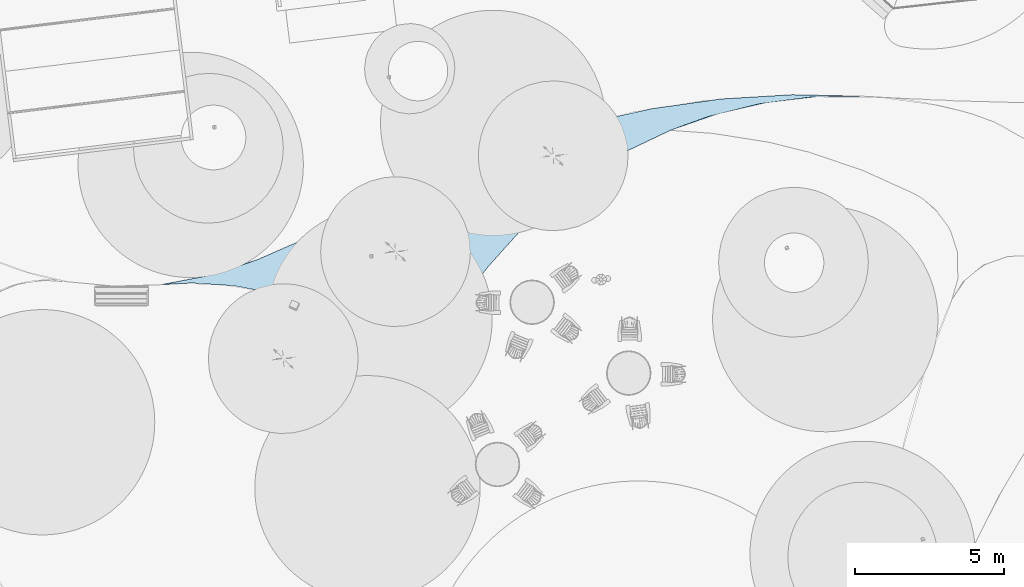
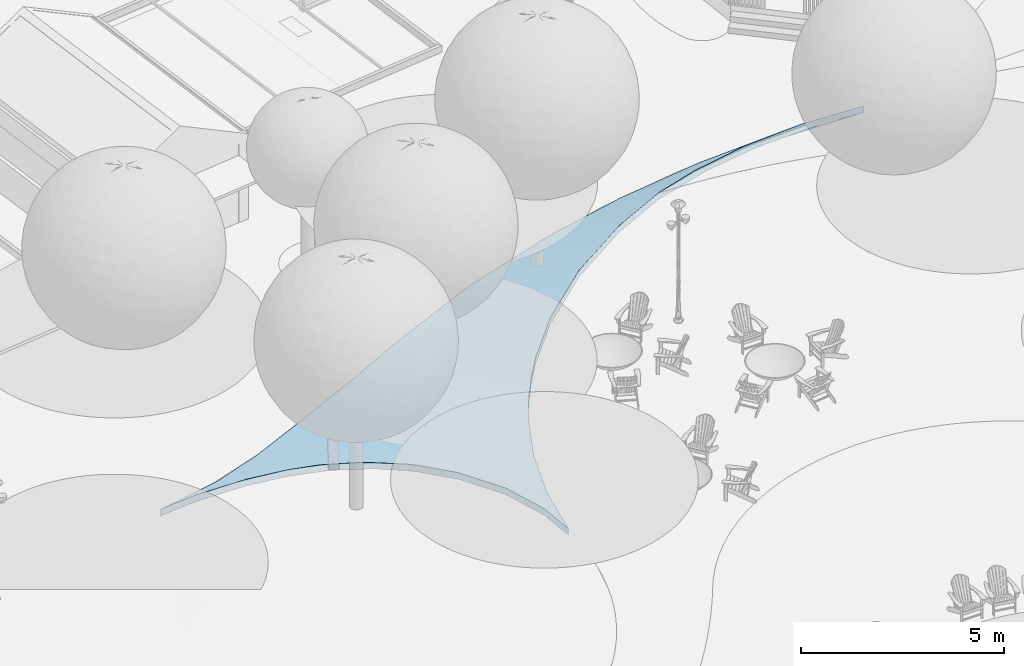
# One storey, part 45 of 75: 1 slab.
"""IFC2X3 building model written with IfcOpenShell, lengths in metres."""

from ifc_helpers import new_model, entity, si_unit, converted_unit, derived_unit, direction, origin, place, context, subcontext, project, spatial, face_set, surface_model, material, material_list, layer, layer_set, type_object, element, save


model = new_model("IFC2X3")

# Units and contexts
model_context = context("Model", 3, precision=1e-05, world=origin(), true_north=direction((6.123031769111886e-17, 1.0)))
body_context = subcontext(model_context, "Body", "Model", "MODEL_VIEW")
ifc_project = project(units=[si_unit("LENGTHUNIT", "METRE"), si_unit("AREAUNIT", "SQUARE_METRE"), si_unit("VOLUMEUNIT", "CUBIC_METRE"), converted_unit("PLANEANGLEUNIT", "DEGREE", entity("IfcRatioMeasure", 0.017453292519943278), si_unit("PLANEANGLEUNIT", "RADIAN"), dimensions=[0, 0, 0, 0, 0, 0, 0]), si_unit("MASSUNIT", "GRAM", prefix="KILO"), derived_unit("MASSDENSITYUNIT", [(si_unit("MASSUNIT", "GRAM", prefix="KILO"), 1), (si_unit("LENGTHUNIT", "METRE"), -3)]), derived_unit("IONCONCENTRATIONUNIT", [(si_unit("MASSUNIT", "GRAM", prefix="KILO"), 1), (si_unit("LENGTHUNIT", "METRE"), -3)]), derived_unit("MOMENTOFINERTIAUNIT", [(si_unit("LENGTHUNIT", "METRE"), 4)]), si_unit("TIMEUNIT", "SECOND"), si_unit("FREQUENCYUNIT", "HERTZ"), si_unit("THERMODYNAMICTEMPERATUREUNIT", "DEGREE_CELSIUS"), derived_unit("THERMALTRANSMITTANCEUNIT", [(si_unit("MASSUNIT", "GRAM", prefix="KILO"), 1), (si_unit("THERMODYNAMICTEMPERATUREUNIT", "KELVIN"), -1), (si_unit("TIMEUNIT", "SECOND"), -3)]), derived_unit("THERMALCONDUCTANCEUNIT", [(si_unit("MASSUNIT", "GRAM", prefix="KILO"), 1), (si_unit("THERMODYNAMICTEMPERATUREUNIT", "KELVIN"), -1), (si_unit("TIMEUNIT", "SECOND"), -3), (si_unit("LENGTHUNIT", "METRE"), 1)]), derived_unit("VOLUMETRICFLOWRATEUNIT", [(si_unit("LENGTHUNIT", "METRE"), 3), (si_unit("TIMEUNIT", "SECOND"), -1)]), derived_unit("MASSFLOWRATEUNIT", [(si_unit("MASSUNIT", "GRAM", prefix="KILO"), 1), (si_unit("TIMEUNIT", "SECOND"), -1)]), derived_unit("ROTATIONALFREQUENCYUNIT", [(si_unit("TIMEUNIT", "SECOND"), -1)]), si_unit("ELECTRICCURRENTUNIT", "AMPERE"), si_unit("ELECTRICVOLTAGEUNIT", "VOLT"), si_unit("POWERUNIT", "WATT"), si_unit("FORCEUNIT", "NEWTON", prefix="KILO"), si_unit("ILLUMINANCEUNIT", "LUX"), si_unit("LUMINOUSFLUXUNIT", "LUMEN"), si_unit("LUMINOUSINTENSITYUNIT", "CANDELA"), derived_unit("USERDEFINED", [(si_unit("MASSUNIT", "GRAM", prefix="KILO"), -1), (si_unit("LENGTHUNIT", "METRE"), -2), (si_unit("TIMEUNIT", "SECOND"), 3), (si_unit("LUMINOUSFLUXUNIT", "LUMEN"), 1)]), derived_unit("USERDEFINED", [(si_unit("MASSUNIT", "GRAM", prefix="KILO"), 1), (si_unit("TIMEUNIT", "SECOND"), -3), (si_unit("LENGTHUNIT", "METRE"), 3), (si_unit("ELECTRICCURRENTUNIT", "AMPERE"), -2)]), derived_unit("SOUNDPOWERUNIT", [(si_unit("MASSUNIT", "GRAM", prefix="KILO"), 1), (si_unit("TIMEUNIT", "SECOND"), -3), (si_unit("LENGTHUNIT", "METRE"), 2)]), derived_unit("SOUNDPRESSUREUNIT", [(si_unit("MASSUNIT", "GRAM", prefix="KILO"), 1), (si_unit("LENGTHUNIT", "METRE"), -1), (si_unit("TIMEUNIT", "SECOND"), -2)]), derived_unit("LINEARVELOCITYUNIT", [(si_unit("LENGTHUNIT", "METRE"), 1), (si_unit("TIMEUNIT", "SECOND"), -1)]), si_unit("PRESSUREUNIT", "PASCAL"), derived_unit("USERDEFINED", [(si_unit("MASSUNIT", "GRAM", prefix="KILO"), 1), (si_unit("LENGTHUNIT", "METRE"), -2), (si_unit("TIMEUNIT", "SECOND"), -2)]), derived_unit("LINEARFORCEUNIT", [(si_unit("MASSUNIT", "GRAM", prefix="KILO"), 1), (si_unit("TIMEUNIT", "SECOND"), -2)]), derived_unit("PLANARFORCEUNIT", [(si_unit("MASSUNIT", "GRAM", prefix="KILO"), 1), (si_unit("LENGTHUNIT", "METRE"), -1), (si_unit("TIMEUNIT", "SECOND"), -2)]), derived_unit("SPECIFICHEATCAPACITYUNIT", [(si_unit("THERMODYNAMICTEMPERATUREUNIT", "KELVIN"), -1), (si_unit("LENGTHUNIT", "METRE"), 2), (si_unit("TIMEUNIT", "SECOND"), -2)]), derived_unit("HEATINGVALUEUNIT", [(si_unit("LENGTHUNIT", "METRE"), 2), (si_unit("TIMEUNIT", "SECOND"), -2)]), derived_unit("VAPORPERMEABILITYUNIT", [(si_unit("LENGTHUNIT", "METRE"), -1), (si_unit("TIMEUNIT", "SECOND"), 1)]), derived_unit("DYNAMICVISCOSITYUNIT", [(si_unit("MASSUNIT", "GRAM", prefix="KILO"), 1), (si_unit("TIMEUNIT", "SECOND"), -1), (si_unit("LENGTHUNIT", "METRE"), -1)]), derived_unit("THERMALEXPANSIONCOEFFICIENTUNIT", [(si_unit("THERMODYNAMICTEMPERATUREUNIT", "KELVIN"), -1)]), derived_unit("MODULUSOFELASTICITYUNIT", [(si_unit("MASSUNIT", "GRAM", prefix="KILO"), 1), (si_unit("LENGTHUNIT", "METRE"), -1), (si_unit("TIMEUNIT", "SECOND"), -2)]), derived_unit("ISOTHERMALMOISTURECAPACITYUNIT", [(si_unit("LENGTHUNIT", "METRE"), 3), (si_unit("MASSUNIT", "GRAM", prefix="KILO"), -1)]), derived_unit("MOISTUREDIFFUSIVITYUNIT", [(si_unit("TIMEUNIT", "SECOND"), -1), (si_unit("LENGTHUNIT", "METRE"), 2)])], contexts=[model_context])

# Site, building, storey
site_placement = place(None, origin())
site = spatial("IfcSite", under=ifc_project, at=site_placement, Name="Default", CompositionType="ELEMENT")
building_placement = place(site_placement, origin())
building = spatial("IfcBuilding", under=site, at=building_placement, Name="Projeto", CompositionType="ELEMENT")
storey_placement = place(building_placement, origin())
storey = spatial("IfcBuildingStorey", under=building, at=storey_placement, Name="Nível 1", CompositionType="ELEMENT", Elevation=0.0)

# Slab
ifc_material_1 = material(Name="Grama-esmeralda")
ifc_material_2 = material(Name="JA_Solo")
ifc_material_list = material_list([ifc_material_1, ifc_material_2])
ifc_layer_1 = layer(ifc_material_1, 0.04)
ifc_layer_2 = layer(ifc_material_2, 0.16)
ifc_layer_set = layer_set([ifc_layer_1, ifc_layer_2], Name="Piso:Zoysia japonica")
slab_type = type_object("IfcSlabType", Name="Piso:Zoysia japonica", PredefinedType="FLOOR", material=ifc_layer_set)
slab_placement = place(storey_placement, origin())
element("IfcSlab", 1, at=slab_placement, inside=storey, type_object=slab_type, material=ifc_material_list, Name="Piso:Zoysia japonica", ObjectType="Piso:Zoysia japonica", PredefinedType="FLOOR", context=body_context, shape_type="SurfaceModel", body=[
    surface_model("IfcFaceBasedSurfaceModel", [(3.0948067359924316, 15.725287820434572, -2.250000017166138), (3.3667863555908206, 16.296077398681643, -2.4499998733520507), (3.0948067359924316, 15.725287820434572, -2.4499998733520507), (2.266455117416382, 12.579850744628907, -2.250000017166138), (2.4244193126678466, 13.379147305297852, -2.250000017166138), (2.4244193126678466, 13.379147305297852, -2.4499998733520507), (2.266455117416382, 12.579850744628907, -2.4499998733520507), (3.445281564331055, 16.46081036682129, -2.250000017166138), (3.581271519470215, 16.746205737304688, -2.250000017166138), (3.7957566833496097, 17.196334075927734, -2.250000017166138), (3.7957566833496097, 17.196334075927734, -2.4499998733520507), (2.710489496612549, 14.565153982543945, -2.4499998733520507), (2.5823836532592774, 14.178442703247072, -2.4499998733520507), (2.5823836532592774, 14.178442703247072, -2.250000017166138), (2.838595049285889, 14.95186526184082, -2.250000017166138), (2.838595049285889, 14.95186526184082, -2.4499998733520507), (2.503401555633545, 13.778795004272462, -2.250000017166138), (2.24629559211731, 12.914145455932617, -2.260328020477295), (1.847088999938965, 14.961510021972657, -2.3249999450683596), (1.6871554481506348, 15.258722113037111, -2.335416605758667), (1.847088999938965, 14.961510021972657, -2.5249999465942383), (2.2013912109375, 13.658774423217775, -2.283333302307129), (2.2013912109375, 13.658774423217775, -2.483333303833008), (2.2339230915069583, 13.119312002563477, -2.4666665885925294), (2.2339230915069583, 13.119312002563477, -2.2666667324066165), (1.5272220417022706, 15.555934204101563, -2.5458332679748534), (1.9356645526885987, 14.635826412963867, -2.5145834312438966), (0.5118600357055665, 16.977783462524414, -2.600000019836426), (0.6857337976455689, 16.770927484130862, -2.5916668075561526), (0.5118600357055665, 16.977783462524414, -2.400000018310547), (-1.7795191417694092, 18.362094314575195, -2.683333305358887), (-1.267250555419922, 18.18987924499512, -2.666666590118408), (-1.5171691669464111, 18.293414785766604, -2.4750000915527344), (-1.0332169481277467, 18.05292365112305, -2.458333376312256), (-0.7947411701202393, 17.92755223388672, -2.64999987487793), (-0.5492647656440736, 17.812432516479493, -2.4416666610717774), (2.0242401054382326, 14.310141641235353, -2.304166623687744), (2.0242401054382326, 14.310141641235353, -2.504166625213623), (0.8596074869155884, 16.564071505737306, -2.3833333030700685), (0.8596074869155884, 16.564071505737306, -2.5833333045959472), (1.2073550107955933, 16.150359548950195, -2.566666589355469), (1.2073550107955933, 16.150359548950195, -2.3666667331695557), (1.5272220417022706, 15.555934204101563, -2.3458332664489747), (0.41465107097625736, 17.071884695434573, -2.4041666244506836), (0.41465107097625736, 17.071884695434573, -2.604166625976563), (0.315321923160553, 17.163743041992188, -2.4083333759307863), (0.315321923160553, 17.163743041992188, -2.608333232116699), (-0.11697141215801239, 17.488087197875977, -2.4249999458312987), (-0.3222317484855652, 17.665224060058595, -2.633333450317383), (-2.2917875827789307, 18.53430822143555, -2.5000000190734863), (-2.2917875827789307, 18.53430822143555, -2.7000000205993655), (-3.3244017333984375, 18.724593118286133, -2.529999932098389), (-3.3244017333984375, 18.724593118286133, -2.7299999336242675), (-4.022561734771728, 18.76908807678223, -2.5499998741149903), (-4.022561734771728, 18.76908807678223, -2.7499998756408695), (-4.72072173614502, 18.81358303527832, -2.5700001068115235), (-4.72072173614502, 18.81358303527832, -2.7700001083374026), (-5.769137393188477, 18.755927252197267, -2.8000000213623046), (-5.769137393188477, 18.755927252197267, -2.600000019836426), (-4.850523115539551, 18.915143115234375, -2.8000000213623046), (-3.923859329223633, 19.107136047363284, -2.600000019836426), (-4.2878876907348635, 19.012660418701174, -2.8000000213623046), (-4.8464986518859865, 18.931531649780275, -2.600000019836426), (-3.3962982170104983, 19.307901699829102, -2.8000000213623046), (-3.214284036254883, 19.355140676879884, -2.600000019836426), (-2.5047084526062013, 19.603145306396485, -2.600000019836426), (-2.5047084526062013, 19.603145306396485, -2.8000000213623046), (-0.7203554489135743, 20.382609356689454, -2.600000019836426), (-0.7203554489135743, 20.382609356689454, -2.8000000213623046), (1.0484365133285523, 21.1967712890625, -2.600000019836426), (1.0484365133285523, 21.1967712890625, -2.8000000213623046), (2.8009926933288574, 22.045314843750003, -2.600000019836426), (2.8009926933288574, 22.045314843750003, -2.8000000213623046), (1.9267860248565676, 21.616764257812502, -2.8000000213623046), (1.9267860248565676, 21.616764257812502, -2.600000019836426), (7.816849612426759, 23.993107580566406, -2.8000000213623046), (5.544510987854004, 23.239439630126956, -2.600000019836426), (8.393810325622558, 24.152851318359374, -2.600000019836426), (10.730195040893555, 24.675198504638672, -2.8000000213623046), (4.98644563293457, 23.02272727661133, -2.8000000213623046), (10.730195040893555, 24.675198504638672, -2.600000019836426), (13.100929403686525, 25.008596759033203, -2.8000000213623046), (13.100929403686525, 25.008596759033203, -2.600000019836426), (15.490760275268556, 25.15089737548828, -2.600000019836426), (15.490760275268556, 25.15089737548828, -2.8000000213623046), (17.884307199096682, 25.101188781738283, -2.600000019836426), (17.884307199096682, 25.101188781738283, -2.8000000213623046), (17.223888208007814, 25.09999583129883, -2.765000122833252), (16.563470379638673, 25.098802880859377, -2.7299999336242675), (17.00410394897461, 25.087008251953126, -2.553333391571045), (16.123901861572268, 25.07282772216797, -2.506666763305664), (15.687856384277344, 25.009236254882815, -2.683333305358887), (15.25121675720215, 24.958250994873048, -2.4600001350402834), (14.812242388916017, 24.9196673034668, -2.636666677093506), (14.37853281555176, 24.84367659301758, -2.413333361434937), (13.95253905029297, 24.73069976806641, -2.590000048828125), (13.092834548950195, 24.541729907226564, -2.5433334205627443), (13.524564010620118, 24.630187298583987, -2.3666667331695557), (12.670595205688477, 24.416700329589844, -2.319999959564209), (12.260303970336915, 24.25582177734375, -2.4966667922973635), (6.40240164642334, 20.640672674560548, -2.250000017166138), (7.2220987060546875, 21.347796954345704, -2.250000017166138), (7.2220987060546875, 21.347796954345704, -2.4499998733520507), (6.40240164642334, 20.640672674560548, -2.4499998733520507), (11.427772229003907, 23.96991597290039, -2.4499998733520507), (11.427772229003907, 23.96991597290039, -2.250000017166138), (12.049184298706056, 24.193306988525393, -2.285000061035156), (10.645588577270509, 23.597534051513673, -2.250000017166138), (10.645588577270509, 23.597534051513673, -2.4499998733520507), (10.254496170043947, 23.411343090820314, -2.4499998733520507), (9.86340492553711, 23.225152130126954, -2.4499998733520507), (9.86340492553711, 23.225152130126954, -2.250000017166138), (8.497197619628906, 22.347477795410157, -2.4499998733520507), (8.041795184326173, 22.05492123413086, -2.4499998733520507), (8.041795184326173, 22.05492123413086, -2.250000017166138), (5.8232090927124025, 19.99645618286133, -2.4499998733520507), (5.8232090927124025, 19.99645618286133, -2.250000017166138), (8.952600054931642, 22.64003668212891, -2.250000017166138), (8.952600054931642, 22.64003668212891, -2.4499998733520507), (5.244017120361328, 19.35223969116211, -2.250000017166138), (5.533612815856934, 19.67434793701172, -2.4499998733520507), (7.63194694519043, 21.70135909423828, -2.250000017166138), (4.721031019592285, 18.66118303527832, -2.250000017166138), (5.244017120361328, 19.35223969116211, -2.4499998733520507), (4.721031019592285, 18.66118303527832, -2.4499998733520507), (4.237766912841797, 17.941787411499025, -2.250000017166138), (4.237766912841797, 17.941787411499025, -2.4499998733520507), (3.902312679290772, 17.385012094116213, -2.250000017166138), (4.011514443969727, 17.572171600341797, -2.250000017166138), (4.011514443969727, 17.572171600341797, -2.4499998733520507), (3.902312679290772, 17.385012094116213, -2.4499998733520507), (4.12333988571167, 17.757775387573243, -2.250000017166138), (4.12333988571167, 17.757775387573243, -2.4499998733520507), (-2.0586202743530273, 19.79801015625, -2.600000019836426), (-1.9044785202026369, 18.413860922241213, -2.4874999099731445), (-1.6125319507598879, 19.99287733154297, -2.600000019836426), (-1.166443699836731, 20.187744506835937, -2.600000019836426), (0.6062385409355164, 20.993230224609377, -2.600000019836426), (0.16404055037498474, 20.789691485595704, -2.600000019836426), (-0.2781574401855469, 20.58615042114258, -2.600000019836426), (3.620519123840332, 16.828572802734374, -2.250000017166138), (2.9667008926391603, 15.338576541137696, -2.250000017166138), (2.710489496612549, 14.565153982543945, -2.250000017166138), (2.3454372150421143, 12.979499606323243, -2.250000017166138), (3.2700442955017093, 16.09304909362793, -2.250000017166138), (-2.7885007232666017, 18.625831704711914, -2.5144308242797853), (-4.385178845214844, 19.019334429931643, -2.600000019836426), (-5.24492985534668, 18.784745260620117, -2.585000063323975), (-5.289821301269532, 18.84715424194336, -2.600000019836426), (-2.0586202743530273, 19.79801015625, -2.8000000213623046), (-1.166443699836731, 20.187744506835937, -2.8000000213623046), (-1.6125319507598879, 19.99287733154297, -2.8000000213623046), (-0.0034556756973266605, 17.414482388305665, -2.620833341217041), (0.16404055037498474, 20.789691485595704, -2.8000000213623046), (0.6062385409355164, 20.993230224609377, -2.8000000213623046), (-0.2781574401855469, 20.58615042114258, -2.8000000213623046), (3.620519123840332, 16.828572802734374, -2.4499998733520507), (3.445281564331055, 16.46081036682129, -2.4499998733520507), (3.2700442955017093, 16.09304909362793, -2.4499998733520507), (2.503401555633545, 13.778795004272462, -2.4499998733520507), (2.9667008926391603, 15.338576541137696, -2.4499998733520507), (2.3454372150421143, 12.979499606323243, -2.4499998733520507), (-2.967894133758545, 19.449763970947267, -2.8000000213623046), (-3.842092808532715, 19.160281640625, -2.8000000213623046), (-2.8080960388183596, 18.62944194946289, -2.7149999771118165), (-5.028512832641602, 18.88429383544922, -2.8000000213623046), (-5.24492985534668, 18.784745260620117, -2.7850000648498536), (4.479398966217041, 18.301485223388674, -2.250000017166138), (1.4354549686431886, 21.38182976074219, -2.600000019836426), (2.3638894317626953, 21.831039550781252, -2.600000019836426), (4.9825237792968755, 19.00671194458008, -2.250000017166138), (4.479398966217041, 18.301485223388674, -2.4499998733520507), (1.4354549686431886, 21.38182976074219, -2.8000000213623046), (2.3638894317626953, 21.831039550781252, -2.8000000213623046), (4.9825237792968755, 19.00671194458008, -2.4499998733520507), (0.6818789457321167, 19.180257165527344, -2.504166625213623), (1.7865172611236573, 17.14899161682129, -2.3429110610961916), (1.396220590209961, 17.196348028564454, -2.3611393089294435), (1.0727893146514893, 17.089437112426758, -2.374811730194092), (1.4418483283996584, 17.039672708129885, -2.357520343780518), (2.153806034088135, 17.087057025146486, -2.3249999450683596), (2.9205752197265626, 17.241385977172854, -2.292200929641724), (3.0624691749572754, 17.361465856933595, -2.2882847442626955), (2.421664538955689, 17.25851865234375, -2.3155676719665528), (1.9180085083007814, 17.340839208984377, -2.339679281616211), (2.964761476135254, 17.456505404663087, -2.2948395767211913), (1.9101262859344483, 17.22747752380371, -2.3383700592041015), (2.2938015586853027, 17.171598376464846, -2.319904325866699), (1.1166649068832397, 17.25229112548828, -2.374006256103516), (2.974781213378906, 17.14169555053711, -2.2875000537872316), (3.486872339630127, 22.34384778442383, -2.600000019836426), (4.858631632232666, 22.94090901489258, -2.600000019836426), (4.172751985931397, 22.642378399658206, -2.600000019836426), (6.812250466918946, 20.994234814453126, -2.250000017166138), (6.969160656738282, 23.69614663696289, -2.600000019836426), (6.256836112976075, 23.467793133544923, -2.600000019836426), (9.408002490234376, 22.932595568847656, -2.250000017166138), (7.681485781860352, 23.924497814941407, -2.600000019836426), (8.497197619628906, 22.347477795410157, -2.250000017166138), (9.562002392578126, 24.414023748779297, -2.600000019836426), (8.977906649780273, 24.283438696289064, -2.600000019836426), (10.146098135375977, 24.544611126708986, -2.600000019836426), (11.91556222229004, 24.841897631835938, -2.600000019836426), (16.68753373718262, 25.126043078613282, -2.600000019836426), (14.29584483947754, 25.079745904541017, -2.600000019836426), (0.6818789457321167, 19.180257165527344, -2.704166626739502), (1.7865172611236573, 17.14899161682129, -2.5429110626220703), (1.396220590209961, 17.196348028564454, -2.5611393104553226), (1.0727893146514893, 17.089437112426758, -2.574811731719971), (1.4418483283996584, 17.039672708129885, -2.5575203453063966), (2.153806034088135, 17.087057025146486, -2.5249999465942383), (2.9205752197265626, 17.241385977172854, -2.4922010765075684), (3.0624691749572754, 17.361465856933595, -2.488284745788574), (2.421664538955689, 17.25851865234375, -2.515567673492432), (1.9180085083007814, 17.340839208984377, -2.53967928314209), (2.964761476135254, 17.456505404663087, -2.4948395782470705), (1.9101262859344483, 17.22747752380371, -2.5383700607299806), (2.2938015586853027, 17.171598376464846, -2.5199043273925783), (1.1166649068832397, 17.25229112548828, -2.5740062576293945), (2.974781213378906, 17.14169555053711, -2.4874999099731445), (3.8937190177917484, 22.534022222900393, -2.8000000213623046), (7.109248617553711, 23.750513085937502, -2.8000000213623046), (6.401647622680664, 23.507918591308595, -2.8000000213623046), (3.347355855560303, 22.289669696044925, -2.8000000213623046), (9.273522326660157, 24.334154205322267, -2.8000000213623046), (8.545185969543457, 24.16362973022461, -2.8000000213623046), (10.001858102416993, 24.50467635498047, -2.8000000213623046), (9.408002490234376, 22.932595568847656, -2.4499998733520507), (6.812250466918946, 20.994234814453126, -2.4499998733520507), (7.63194694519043, 21.70135909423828, -2.4499998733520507), (5.694046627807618, 23.265324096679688, -2.8000000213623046), (4.440082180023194, 22.778374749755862, -2.8000000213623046), (12.19137096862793, 24.23210462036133, -2.492802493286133), (11.91556222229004, 24.841897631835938, -2.8000000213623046), (14.29584483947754, 25.079745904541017, -2.8000000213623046), (16.68753373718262, 25.126043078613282, -2.8000000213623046), (17.07667161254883, 25.09968887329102, -2.757197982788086)], [face_set([[[0, 1, 2]], [[3, 4, 5, 6]], [[1, 0, 7]], [[1, 8, 9, 10]], [[11, 12, 13]], [[1, 7, 8]], [[14, 15, 11]], [[13, 14, 11]], [[16, 13, 12]], [[2, 15, 14, 0]], [[12, 5, 16]], [[5, 4, 16]], [[3, 17, 6]], [[18, 19, 20]], [[21, 22, 23, 24]], [[20, 19, 25]], [[20, 26, 18]], [[27, 28, 29]], [[30, 31, 32]], [[33, 34, 35]], [[36, 37, 22, 21]], [[38, 39, 40, 41]], [[25, 42, 41, 40]], [[6, 17, 23]], [[27, 29, 43, 44]], [[45, 46, 44, 43]], [[33, 32, 31]], [[18, 26, 36]], [[29, 28, 38]], [[31, 34, 33]], [[46, 47, 48]], [[24, 23, 17]], [[49, 50, 30]], [[47, 35, 48]], [[42, 25, 19]], [[47, 46, 45]], [[49, 30, 32]], [[26, 37, 36]], [[35, 34, 48]], [[28, 39, 38]], [[51, 52, 50, 49]], [[53, 54, 52, 51]], [[55, 56, 57, 58]], [[55, 56, 54, 53]], [[59, 57, 58]], [[60, 61, 62]], [[63, 60, 64]], [[64, 65, 66]], [[63, 61, 60]], [[62, 59, 58]], [[63, 64, 66]], [[59, 62, 61]], [[67, 68, 66, 65]], [[68, 67, 69, 70]], [[71, 72, 73, 74]], [[74, 73, 70, 69]], [[75, 76, 77]], [[78, 75, 77]], [[72, 71, 79]], [[79, 71, 76]], [[76, 75, 79]], [[77, 80, 78]], [[81, 82, 83, 84]], [[84, 83, 85, 86]], [[82, 81, 78, 80]], [[87, 88, 89]], [[90, 88, 91]], [[87, 85, 86]], [[91, 92, 90]], [[93, 94, 92]], [[94, 93, 95]], [[96, 97, 95]], [[98, 96, 99]], [[92, 91, 93]], [[85, 87, 89]], [[100, 101, 102, 103]], [[97, 94, 95]], [[104, 105, 106]], [[107, 108, 109]], [[98, 99, 106]], [[109, 110, 111]], [[104, 108, 107, 105]], [[112, 113, 114]], [[96, 98, 97]], [[103, 115, 116, 100]], [[117, 111, 110, 118]], [[88, 90, 89]], [[119, 116, 120]], [[113, 121, 114]], [[111, 107, 109]], [[122, 119, 123, 124]], [[104, 106, 99]], [[114, 117, 112]], [[125, 122, 124, 126]], [[127, 128, 129, 130]], [[113, 102, 101, 121]], [[128, 131, 132, 129]], [[117, 118, 112]], [[131, 125, 126, 132]], [[9, 127, 130, 10]], [[123, 119, 120]], [[116, 115, 120]], [[49, 133, 65]], [[134, 135, 133]], [[33, 136, 32]], [[45, 137, 47]], [[33, 35, 67]], [[134, 32, 135]], [[35, 47, 138]], [[139, 67, 35, 138]], [[136, 33, 67]], [[136, 135, 32]], [[133, 49, 134]], [[137, 45, 69]], [[137, 138, 47]], [[140, 9, 29]], [[141, 18, 14]], [[38, 41, 7]], [[4, 21, 24]], [[36, 13, 142]], [[29, 38, 140]], [[3, 143, 24]], [[16, 36, 21]], [[142, 14, 18]], [[16, 13, 36]], [[21, 4, 16]], [[18, 141, 42]], [[18, 36, 142]], [[41, 0, 144]], [[0, 41, 42]], [[38, 7, 140]], [[144, 7, 41]], [[143, 4, 24]], [[141, 0, 42]], [[64, 145, 65]], [[65, 145, 49]], [[53, 146, 55]], [[145, 64, 51]], [[62, 147, 55]], [[147, 62, 148]], [[60, 53, 51]], [[148, 58, 147]], [[146, 62, 55]], [[146, 53, 60]], [[60, 51, 64]], [[149, 66, 50]], [[150, 151, 31]], [[152, 48, 153]], [[31, 30, 151]], [[154, 152, 153]], [[152, 154, 46]], [[149, 30, 50]], [[34, 155, 68]], [[31, 68, 150]], [[155, 153, 48]], [[34, 31, 68]], [[154, 70, 46]], [[34, 155, 48]], [[30, 151, 149]], [[156, 10, 27]], [[37, 12, 11]], [[39, 40, 157]], [[2, 40, 25]], [[2, 158, 40]], [[27, 39, 156]], [[5, 22, 23]], [[11, 15, 20]], [[159, 12, 37]], [[22, 5, 159]], [[20, 160, 25]], [[6, 161, 23]], [[23, 161, 5]], [[20, 37, 11]], [[158, 157, 40]], [[159, 37, 22]], [[39, 157, 156]], [[160, 20, 15]], [[160, 2, 25]], [[50, 66, 162]], [[61, 54, 163]], [[52, 63, 164]], [[63, 164, 162]], [[56, 61, 165]], [[54, 56, 61]], [[57, 166, 165]], [[54, 163, 52]], [[63, 163, 52]], [[164, 162, 50]], [[166, 56, 165]], [[74, 167, 122]], [[125, 168, 69]], [[169, 74, 170]], [[119, 71, 169]], [[74, 122, 170]], [[168, 167, 74]], [[119, 169, 170]], [[168, 125, 167]], [[73, 171, 124]], [[126, 172, 70]], [[173, 73, 174]], [[123, 72, 173]], [[73, 124, 174]], [[172, 171, 73]], [[123, 173, 174]], [[172, 126, 171]], [[45, 128, 131]], [[125, 69, 175]], [[125, 175, 131]], [[131, 175, 45]], [[176, 177, 178]], [[179, 180, 176]], [[181, 182, 183]], [[184, 183, 185]], [[178, 177, 43]], [[186, 184, 177]], [[128, 185, 182]], [[176, 180, 187]], [[183, 187, 181]], [[187, 183, 186]], [[29, 179, 178]], [[178, 179, 176]], [[177, 176, 186]], [[29, 178, 43]], [[177, 184, 188]], [[45, 43, 188]], [[43, 177, 188]], [[180, 189, 187]], [[127, 181, 9]], [[181, 187, 189]], [[9, 181, 189]], [[183, 182, 185]], [[181, 127, 182]], [[128, 182, 127]], [[187, 186, 176]], [[184, 186, 183]], [[190, 71, 119]], [[100, 191, 192]], [[193, 76, 191]], [[191, 100, 193]], [[114, 194, 195]], [[196, 77, 117]], [[197, 198, 117]], [[76, 193, 101, 121]], [[194, 114, 198]], [[119, 116, 190]], [[198, 197, 194]], [[111, 199, 200]], [[116, 100, 192]], [[121, 114, 195]], [[76, 121, 195]], [[105, 201, 107]], [[199, 111, 107]], [[117, 77, 197]], [[77, 111, 200]], [[77, 196, 111]], [[116, 192, 190]], [[201, 105, 80]], [[201, 199, 107]], [[202, 106, 98]], [[90, 203, 83]], [[82, 98, 97]], [[106, 80, 105]], [[82, 202, 98]], [[85, 203, 89]], [[92, 90, 83]], [[204, 92, 83]], [[203, 90, 89]], [[94, 204, 82]], [[92, 204, 94]], [[94, 82, 97]], [[80, 106, 202]], [[46, 129, 132]], [[126, 70, 205]], [[126, 205, 132]], [[132, 205, 46]], [[206, 207, 208]], [[209, 210, 206]], [[211, 212, 213]], [[214, 213, 215]], [[208, 207, 44]], [[216, 214, 207]], [[129, 215, 212]], [[206, 210, 217]], [[213, 217, 211]], [[217, 213, 216]], [[27, 209, 208]], [[208, 209, 206]], [[207, 206, 216]], [[27, 208, 44]], [[207, 214, 218]], [[46, 44, 218]], [[44, 207, 218]], [[210, 219, 217]], [[130, 211, 10]], [[211, 217, 219]], [[10, 211, 219]], [[213, 212, 215]], [[211, 130, 212]], [[129, 212, 130]], [[217, 216, 206]], [[214, 216, 213]], [[115, 103, 220]], [[221, 113, 112]], [[222, 113, 221]], [[123, 115, 223]], [[110, 224, 225]], [[104, 226, 108]], [[224, 110, 108]], [[227, 110, 225]], [[112, 118, 227, 75]], [[223, 72, 123]], [[79, 103, 228]], [[229, 230, 102]], [[75, 221, 112]], [[231, 220, 103]], [[75, 227, 225]], [[79, 231, 103]], [[115, 220, 223]], [[79, 228, 102]], [[229, 113, 222]], [[226, 104, 78]], [[226, 224, 108]], [[230, 229, 222]], [[230, 79, 102]], [[78, 104, 232]], [[78, 232, 233]], [[81, 233, 96]], [[234, 95, 93]], [[96, 233, 232]], [[235, 236, 86]], [[234, 93, 84]], [[236, 235, 88]], [[81, 96, 95]], [[81, 95, 234]], [[235, 84, 88]], [[84, 93, 91]], [[91, 88, 84]]])]),
])

save(model, "model.ifc")
